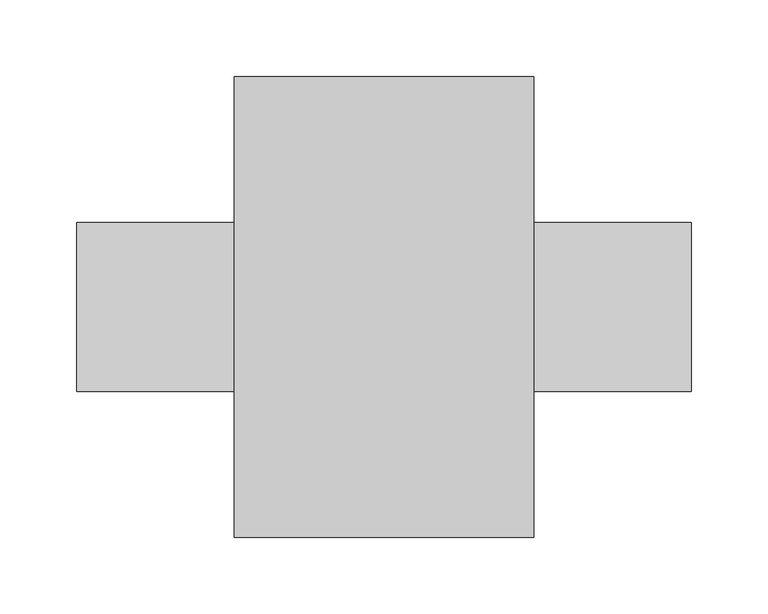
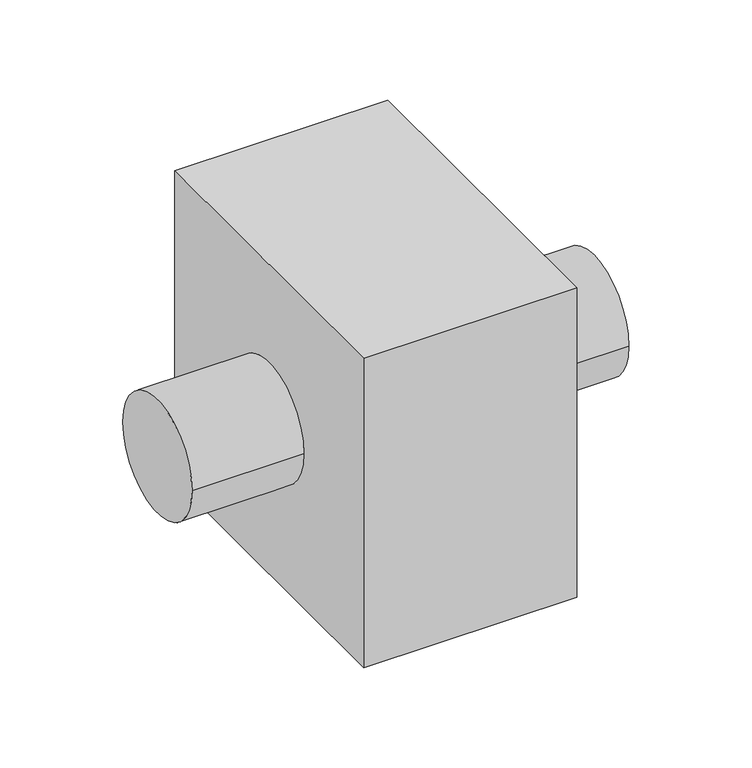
"""IFC4 building model written with IfcOpenShell, lengths in millimetres: damper geometry, 06_Клапан_Размер соединителя-2 : 02_Клапан_Геометрия."""

from ifc_helpers import new_model, si_unit, frame, origin, place, context, project, spatial, circle_curve, source, transform, mapped, element, save
from ifc_brep_helpers import plane_surface, cylinder_surface, advanced_brep


def damper_48ec160e(model_context):
    return source(origin(), model_context, "Body", "AdvancedBrep", [
        advanced_brep(
        [(97.579916, 150.0, 150.0), (97.579916, -150.0, 150.0), (97.579916, -150.0, -150.0), (97.579916, 150.0, -150.0), (97.579916, 55.0, 0.0), (97.579916, -55.0, 0.0), (-97.579916, 150.0, 150.0), (-97.579916, 150.0, -150.0), (-97.579916, -150.0, -150.0), (-97.579916, -150.0, 150.0), (-97.579916, -55.0, 0.0), (-97.579916, 55.0, 0.0), (200.0, -55.0, 0.0), (200.0, 55.0, 0.0), (-200.0, -55.0, 0.0), (-200.0, 55.0, 0.0)],
        [
            (0, 1),
            (1, 2),
            (2, 3),
            (3, 0),
            (4, 5, circle_curve(frame((97.579916, 0.0, 0.0), z_axis=(-1.0, 0.0, 0.0), x_axis=(0.0, 1.0, 0.0)), 55.0)),
            (5, 4, circle_curve(frame((97.579916, 0.0, 0.0), z_axis=(-1.0, 0.0, 0.0), x_axis=(0.0, 1.0, 0.0)), 55.0)),
            (6, 7),
            (7, 8),
            (8, 9),
            (9, 6),
            (10, 11, circle_curve(frame((-97.579916, 0.0, 0.0), z_axis=(1.0, 0.0, 0.0), x_axis=(0.0, 1.0, 0.0)), 55.0)),
            (11, 10, circle_curve(frame((-97.579916, 0.0, 0.0), z_axis=(1.0, 0.0, 0.0), x_axis=(0.0, 1.0, 0.0)), 55.0)),
            (0, 6),
            (9, 1),
            (8, 2),
            (7, 3),
            (12, 13, circle_curve(frame((200.0, 0.0, 0.0), z_axis=(1.0, 0.0, 0.0), x_axis=(0.0, 1.0, 0.0)), 55.0)),
            (13, 12, circle_curve(frame((200.0, 0.0, 0.0), z_axis=(1.0, 0.0, 0.0), x_axis=(0.0, 1.0, 0.0)), 55.0)),
            (14, 15, circle_curve(frame((-200.0, 0.0, 0.0), z_axis=(-1.0, 0.0, 0.0), x_axis=(0.0, 1.0, 0.0)), 55.0)),
            (15, 14, circle_curve(frame((-200.0, 0.0, 0.0), z_axis=(-1.0, 0.0, 0.0), x_axis=(0.0, 1.0, 0.0)), 55.0)),
            (12, 5),
            (4, 13),
            (15, 11),
            (10, 14),
        ],
        [
            plane_surface(frame((97.579916, -150.0, 150.0), z_axis=(1.0, 0.0, 0.0), x_axis=(0.0, -1.0, 0.0))),
            plane_surface(frame((-97.579916, -150.0, 150.0), z_axis=(-1.0, 0.0, 0.0), x_axis=(0.0, 1.0, 0.0))),
            plane_surface(frame((97.579916, 150.0, 150.0), z_axis=(0.0, 0.0, 1.0), x_axis=(-1.0, 0.0, 0.0))),
            plane_surface(frame((97.579916, -150.0, 150.0), z_axis=(0.0, -1.0, 0.0), x_axis=(-1.0, 0.0, 0.0))),
            plane_surface(frame((97.579916, -150.0, -150.0), z_axis=(0.0, 0.0, -1.0), x_axis=(-1.0, 0.0, 0.0))),
            plane_surface(frame((97.579916, 150.0, -150.0), z_axis=(0.0, 1.0, 0.0), x_axis=(-1.0, 0.0, 0.0))),
            plane_surface(frame((200.0, 55.0, 0.0), z_axis=(1.0, 0.0, 0.0), x_axis=(0.0, 0.0, 1.0))),
            plane_surface(frame((-200.0, 55.0, 0.0), z_axis=(-1.0, 0.0, 0.0), x_axis=(0.0, 0.0, -1.0))),
            cylinder_surface(frame((-200.0, 0.0, 0.0), z_axis=(1.0, 0.0, 0.0), x_axis=(0.0, 1.0, 0.0)), 55.0),
        ],
        [
            (0, [[1, 2, 3, 4], [5, 6]]),
            (1, [[7, 8, 9, 10], [11, 12]]),
            (2, [[-1, 13, -10, 14]]),
            (3, [[-2, -14, -9, 15]]),
            (4, [[-3, -15, -8, 16]]),
            (5, [[-4, -16, -7, -13]]),
            (6, [[17, 18]]),
            (7, [[19, 20]]),
            (8, [[-17, 21, -5, 22]]),
            (8, [[-20, 23, -11, 24]]),
            (8, [[-18, -22, -6, -21]]),
            (8, [[-19, -24, -12, -23]]),
        ],
    ),
    ])


if __name__ == "__main__":
    model = new_model("IFC4")
    model_context = context("Model", 3, world=origin())
    ifc_project = project(units=[si_unit("LENGTHUNIT", "METRE", prefix="MILLI")], contexts=[model_context])
    site = spatial("IfcSite", under=ifc_project)
    building = spatial("IfcBuilding", under=site)
    placement = place(None, origin())
    damper_shape = damper_48ec160e(model_context)
    element("IfcDamper", 1, ObjectType="06_Клапан_Размер соединителя-2 : 02_Клапан_Геометрия", at=placement, inside=building, context=model_context, shape_type="MappedRepresentation", body=[
        mapped(damper_shape, transform((0.0, 0.0, 0.0), x_axis=(1.0, 0.0, 0.0), y_axis=(0.0, 1.0, 0.0), z_axis=(0.0, 0.0, 1.0))),
    ])
    save(model, "model.ifc")
